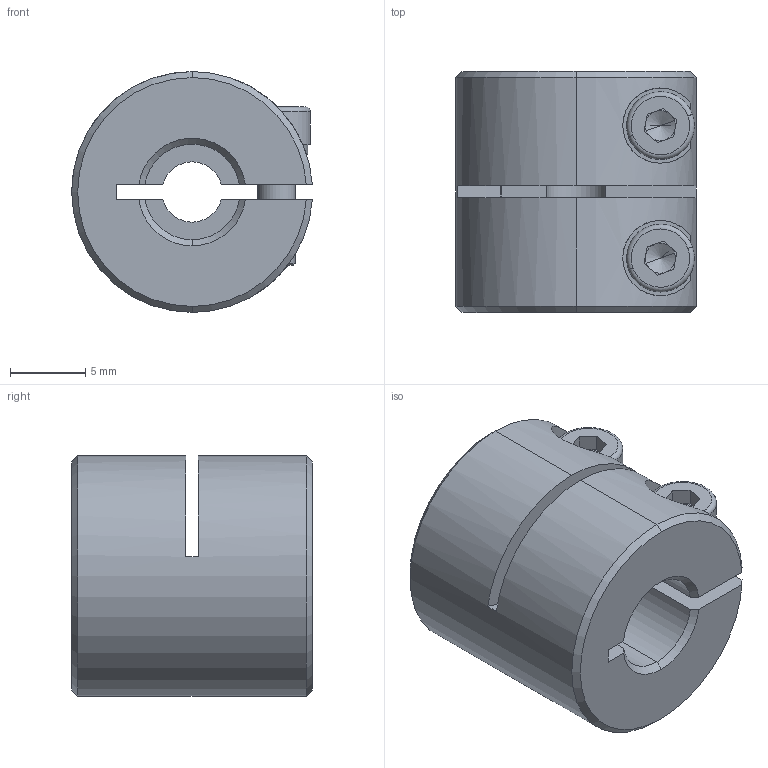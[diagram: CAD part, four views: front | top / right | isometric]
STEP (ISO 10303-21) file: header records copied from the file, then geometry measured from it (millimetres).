
FILE_DESCRIPTION (( 'STEP AP203' ), '1' );
FILE_NAME ('LL-B-D16L16-4-6.35.STEP', '2021-11-03T02:38:33', ( '' ), ( '' ), 'SwSTEP 2.0', 'SolidWorks 2018', '' );
FILE_SCHEMA (( 'CONFIG_CONTROL_DESIGN' ));
Length unit declared in the file: millimetre
Products named in the file (1): LL-B-D16L16-4-6.35
Bounding box: 15.98 x 16 x 16 mm (x, y, z)
Volume: 2645.1 mm3; surface area: 2030 mm2
Topology: 1 solids, 1 shells, 121 faces, 313 edges, 196 vertices
Faces by surface type: plane 52, cylinder 45, cone 20, torus 4
Entity records: 3948 total; most frequent: CARTESIAN_POINT 879, DIRECTION 653, ORIENTED_EDGE 618, EDGE_CURVE 309, AXIS2_PLACEMENT_3D 254, VERTEX_POINT 196, VECTOR 145, LINE 145
